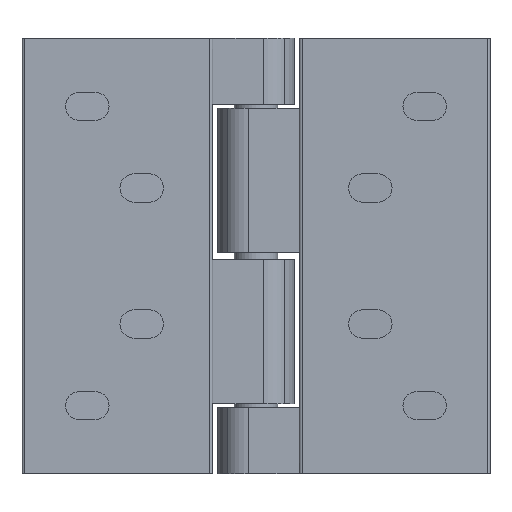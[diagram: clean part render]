
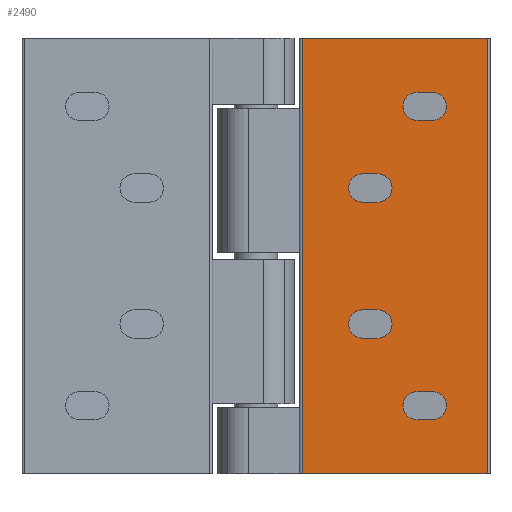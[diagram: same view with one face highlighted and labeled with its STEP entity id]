
A CAD part, front view. The second image highlights one B-rep face of the part: STEP entity #2490.
In plain terms, the highlighted planar face has unit normal (0, -1, 0).
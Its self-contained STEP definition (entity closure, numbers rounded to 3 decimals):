
#121=LINE('',#3863,#364);
#136=LINE('',#3912,#379);
#191=LINE('',#4086,#434);
#192=LINE('',#4090,#435);
#193=LINE('',#4095,#436);
#194=LINE('',#4098,#437);
#195=LINE('',#4103,#438);
#196=LINE('',#4106,#439);
#197=LINE('',#4111,#440);
#198=LINE('',#4114,#441);
#199=LINE('',#4119,#442);
#200=LINE('',#4122,#443);
#364=VECTOR('',#3115,1000.);
#379=VECTOR('',#3152,1000.);
#434=VECTOR('',#3329,1000.);
#435=VECTOR('',#3334,1000.);
#436=VECTOR('',#3337,1000.);
#437=VECTOR('',#3340,1000.);
#438=VECTOR('',#3343,1000.);
#439=VECTOR('',#3346,1000.);
#440=VECTOR('',#3349,1000.);
#441=VECTOR('',#3352,1000.);
#442=VECTOR('',#3355,1000.);
#443=VECTOR('',#3358,1000.);
#590=PLANE('',#2748);
#1004=ORIENTED_EDGE('',*,*,#1582,.F.);
#1005=ORIENTED_EDGE('',*,*,#1583,.F.);
#1006=ORIENTED_EDGE('',*,*,#1584,.F.);
#1007=ORIENTED_EDGE('',*,*,#1585,.F.);
#1008=ORIENTED_EDGE('',*,*,#1586,.F.);
#1009=ORIENTED_EDGE('',*,*,#1587,.F.);
#1010=ORIENTED_EDGE('',*,*,#1588,.F.);
#1011=ORIENTED_EDGE('',*,*,#1589,.F.);
#1012=ORIENTED_EDGE('',*,*,#1590,.F.);
#1013=ORIENTED_EDGE('',*,*,#1591,.F.);
#1014=ORIENTED_EDGE('',*,*,#1592,.F.);
#1015=ORIENTED_EDGE('',*,*,#1593,.F.);
#1016=ORIENTED_EDGE('',*,*,#1594,.F.);
#1017=ORIENTED_EDGE('',*,*,#1595,.F.);
#1018=ORIENTED_EDGE('',*,*,#1596,.F.);
#1019=ORIENTED_EDGE('',*,*,#1597,.F.);
#1020=ORIENTED_EDGE('',*,*,#1468,.T.);
#1021=ORIENTED_EDGE('',*,*,#1493,.F.);
#1022=ORIENTED_EDGE('',*,*,#1598,.F.);
#1023=ORIENTED_EDGE('',*,*,#1580,.T.);
#1468=EDGE_CURVE('',#1787,#1786,#121,.T.);
#1493=EDGE_CURVE('',#1809,#1786,#136,.T.);
#1580=EDGE_CURVE('',#1868,#1787,#191,.T.);
#1582=EDGE_CURVE('',#1869,#1870,#192,.T.);
#1583=EDGE_CURVE('',#1871,#1869,#2004,.F.);
#1584=EDGE_CURVE('',#1872,#1871,#193,.T.);
#1585=EDGE_CURVE('',#1870,#1872,#2005,.F.);
#1586=EDGE_CURVE('',#1873,#1874,#194,.T.);
#1587=EDGE_CURVE('',#1875,#1873,#2006,.F.);
#1588=EDGE_CURVE('',#1876,#1875,#195,.T.);
#1589=EDGE_CURVE('',#1874,#1876,#2007,.F.);
#1590=EDGE_CURVE('',#1877,#1878,#196,.T.);
#1591=EDGE_CURVE('',#1879,#1877,#2008,.F.);
#1592=EDGE_CURVE('',#1880,#1879,#197,.T.);
#1593=EDGE_CURVE('',#1878,#1880,#2009,.F.);
#1594=EDGE_CURVE('',#1881,#1882,#198,.T.);
#1595=EDGE_CURVE('',#1883,#1881,#2010,.F.);
#1596=EDGE_CURVE('',#1884,#1883,#199,.T.);
#1597=EDGE_CURVE('',#1882,#1884,#2011,.F.);
#1598=EDGE_CURVE('',#1868,#1809,#200,.T.);
#1786=VERTEX_POINT('',#3862);
#1787=VERTEX_POINT('',#3864);
#1809=VERTEX_POINT('',#3911);
#1868=VERTEX_POINT('',#4087);
#1869=VERTEX_POINT('',#4091);
#1870=VERTEX_POINT('',#4092);
#1871=VERTEX_POINT('',#4094);
#1872=VERTEX_POINT('',#4096);
#1873=VERTEX_POINT('',#4099);
#1874=VERTEX_POINT('',#4100);
#1875=VERTEX_POINT('',#4102);
#1876=VERTEX_POINT('',#4104);
#1877=VERTEX_POINT('',#4107);
#1878=VERTEX_POINT('',#4108);
#1879=VERTEX_POINT('',#4110);
#1880=VERTEX_POINT('',#4112);
#1881=VERTEX_POINT('',#4115);
#1882=VERTEX_POINT('',#4116);
#1883=VERTEX_POINT('',#4118);
#1884=VERTEX_POINT('',#4120);
#2004=CIRCLE('',#2749,2.6);
#2005=CIRCLE('',#2750,2.6);
#2006=CIRCLE('',#2751,2.6);
#2007=CIRCLE('',#2752,2.6);
#2008=CIRCLE('',#2753,2.6);
#2009=CIRCLE('',#2754,2.6);
#2010=CIRCLE('',#2755,2.6);
#2011=CIRCLE('',#2756,2.6);
#2125=EDGE_LOOP('',(#1004,#1005,#1006,#1007));
#2126=EDGE_LOOP('',(#1008,#1009,#1010,#1011));
#2127=EDGE_LOOP('',(#1012,#1013,#1014,#1015));
#2128=EDGE_LOOP('',(#1016,#1017,#1018,#1019));
#2129=EDGE_LOOP('',(#1020,#1021,#1022,#1023));
#2287=FACE_BOUND('',#2125,.T.);
#2288=FACE_BOUND('',#2126,.T.);
#2289=FACE_BOUND('',#2127,.T.);
#2290=FACE_BOUND('',#2128,.T.);
#2291=FACE_BOUND('',#2129,.T.);
#2490=ADVANCED_FACE('',(#2287,#2288,#2289,#2290,#2291),#590,.F.);
#2748=AXIS2_PLACEMENT_3D('',#4089,#3332,#3333);
#2749=AXIS2_PLACEMENT_3D('',#4093,#3335,#3336);
#2750=AXIS2_PLACEMENT_3D('',#4097,#3338,#3339);
#2751=AXIS2_PLACEMENT_3D('',#4101,#3341,#3342);
#2752=AXIS2_PLACEMENT_3D('',#4105,#3344,#3345);
#2753=AXIS2_PLACEMENT_3D('',#4109,#3347,#3348);
#2754=AXIS2_PLACEMENT_3D('',#4113,#3350,#3351);
#2755=AXIS2_PLACEMENT_3D('',#4117,#3353,#3354);
#2756=AXIS2_PLACEMENT_3D('',#4121,#3356,#3357);
#3115=DIRECTION('',(1.,0.,0.));
#3152=DIRECTION('',(0.,0.,-1.));
#3329=DIRECTION('',(0.,0.,-1.));
#3332=DIRECTION('',(0.,1.,0.));
#3333=DIRECTION('',(0.,0.,1.));
#3334=DIRECTION('',(1.,0.,0.));
#3335=DIRECTION('',(0.,1.,0.));
#3336=DIRECTION('',(0.,0.,1.));
#3337=DIRECTION('',(-1.,0.,0.));
#3338=DIRECTION('',(0.,1.,0.));
#3339=DIRECTION('',(0.,0.,1.));
#3340=DIRECTION('',(1.,0.,0.));
#3341=DIRECTION('',(0.,1.,0.));
#3342=DIRECTION('',(0.,0.,1.));
#3343=DIRECTION('',(-1.,0.,0.));
#3344=DIRECTION('',(0.,1.,0.));
#3345=DIRECTION('',(0.,0.,1.));
#3346=DIRECTION('',(1.,0.,0.));
#3347=DIRECTION('',(0.,1.,0.));
#3348=DIRECTION('',(0.,0.,1.));
#3349=DIRECTION('',(-1.,0.,0.));
#3350=DIRECTION('',(0.,1.,0.));
#3351=DIRECTION('',(0.,0.,1.));
#3352=DIRECTION('',(1.,0.,0.));
#3353=DIRECTION('',(0.,1.,0.));
#3354=DIRECTION('',(0.,0.,1.));
#3355=DIRECTION('',(-1.,0.,0.));
#3356=DIRECTION('',(0.,1.,0.));
#3357=DIRECTION('',(0.,0.,1.));
#3358=DIRECTION('',(1.,0.,0.));
#3862=CARTESIAN_POINT('',(-8.46,-8.051,-40.));
#3863=CARTESIAN_POINT('',(-42.5,-8.051,-40.));
#3864=CARTESIAN_POINT('',(-42.5,-8.051,-40.));
#3911=CARTESIAN_POINT('',(-8.46,-8.051,40.));
#3912=CARTESIAN_POINT('',(-8.46,-8.051,40.));
#4086=CARTESIAN_POINT('',(-42.5,-8.051,40.));
#4087=CARTESIAN_POINT('',(-42.5,-8.051,40.));
#4089=CARTESIAN_POINT('',(-42.5,-8.051,40.));
#4090=CARTESIAN_POINT('',(-42.5,-8.051,-30.1));
#4091=CARTESIAN_POINT('',(-32.4,-8.051,-30.1));
#4092=CARTESIAN_POINT('',(-29.6,-8.051,-30.1));
#4093=CARTESIAN_POINT('',(-32.4,-8.051,-27.5));
#4094=CARTESIAN_POINT('',(-32.4,-8.051,-24.9));
#4095=CARTESIAN_POINT('',(-42.5,-8.051,-24.9));
#4096=CARTESIAN_POINT('',(-29.6,-8.051,-24.9));
#4097=CARTESIAN_POINT('',(-29.6,-8.051,-27.5));
#4098=CARTESIAN_POINT('',(-42.5,-8.051,24.9));
#4099=CARTESIAN_POINT('',(-32.4,-8.051,24.9));
#4100=CARTESIAN_POINT('',(-29.6,-8.051,24.9));
#4101=CARTESIAN_POINT('',(-32.4,-8.051,27.5));
#4102=CARTESIAN_POINT('',(-32.4,-8.051,30.1));
#4103=CARTESIAN_POINT('',(-42.5,-8.051,30.1));
#4104=CARTESIAN_POINT('',(-29.6,-8.051,30.1));
#4105=CARTESIAN_POINT('',(-29.6,-8.051,27.5));
#4106=CARTESIAN_POINT('',(-42.5,-8.051,-15.1));
#4107=CARTESIAN_POINT('',(-22.4,-8.051,-15.1));
#4108=CARTESIAN_POINT('',(-19.6,-8.051,-15.1));
#4109=CARTESIAN_POINT('',(-22.4,-8.051,-12.5));
#4110=CARTESIAN_POINT('',(-22.4,-8.051,-9.9));
#4111=CARTESIAN_POINT('',(-42.5,-8.051,-9.9));
#4112=CARTESIAN_POINT('',(-19.6,-8.051,-9.9));
#4113=CARTESIAN_POINT('',(-19.6,-8.051,-12.5));
#4114=CARTESIAN_POINT('',(-42.5,-8.051,9.9));
#4115=CARTESIAN_POINT('',(-22.4,-8.051,9.9));
#4116=CARTESIAN_POINT('',(-19.6,-8.051,9.9));
#4117=CARTESIAN_POINT('',(-22.4,-8.051,12.5));
#4118=CARTESIAN_POINT('',(-22.4,-8.051,15.1));
#4119=CARTESIAN_POINT('',(-42.5,-8.051,15.1));
#4120=CARTESIAN_POINT('',(-19.6,-8.051,15.1));
#4121=CARTESIAN_POINT('',(-19.6,-8.051,12.5));
#4122=CARTESIAN_POINT('',(-42.5,-8.051,40.));
